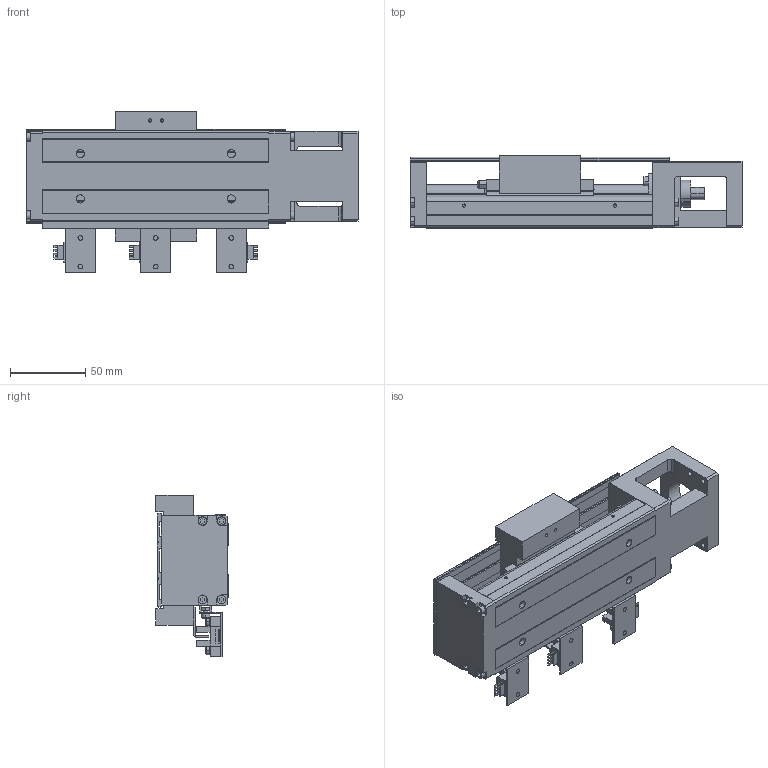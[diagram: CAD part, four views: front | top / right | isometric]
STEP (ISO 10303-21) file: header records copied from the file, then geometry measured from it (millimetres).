
FILE_DESCRIPTION (( 'STEP AP203' ), '1' );
FILE_NAME ('HKK60D5C-150A1-F0CS1.stp', '2021-11-29T03:32:50', ( '' ), ( '' ), 'SwSTEP 2.0', 'SolidWorks 2018', '' );
FILE_SCHEMA (( 'CONFIG_CONTROL_DESIGN' ));
Length unit declared in the file: millimetre
Products named in the file (1): HKK60D5C-150A1-F0CS1
Bounding box: 220 x 48 x 106.85 mm (x, y, z)
Volume: 391744.7 mm3; surface area: 135764.3 mm2
Topology: 6 solids, 20 shells, 1400 faces, 3523 edges, 2239 vertices
Faces by surface type: plane 874, cylinder 382, cone 110, torus 32, bspline 2
Entity records: 41710 total; most frequent: CARTESIAN_POINT 8197, ORIENTED_EDGE 6946, DIRECTION 6843, EDGE_CURVE 3473, LINE 2445, VECTOR 2445, VERTEX_POINT 2239, AXIS2_PLACEMENT_3D 2199
